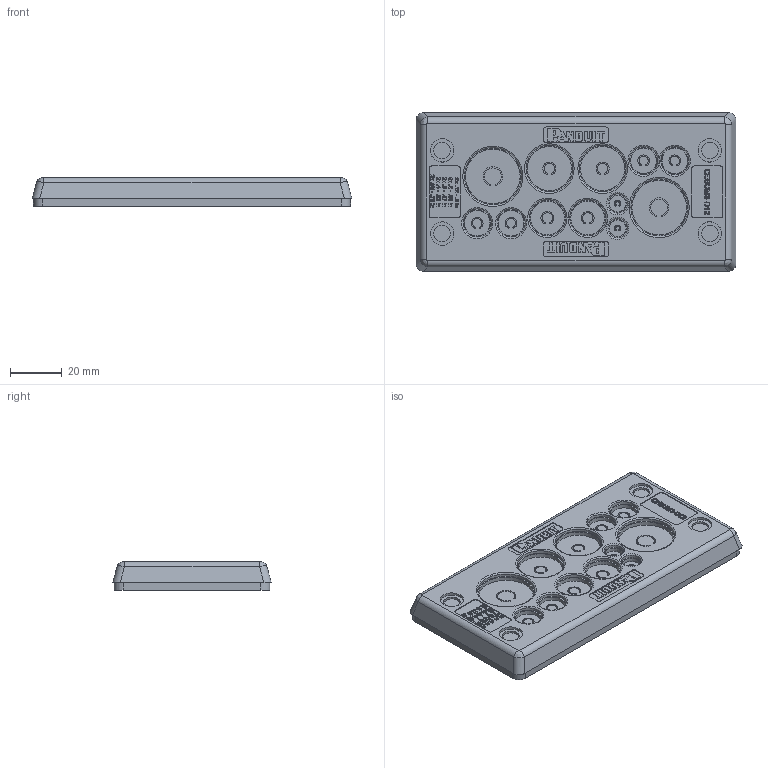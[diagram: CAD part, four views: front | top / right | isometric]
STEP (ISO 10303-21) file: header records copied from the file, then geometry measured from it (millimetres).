
FILE_DESCRIPTION(/* description */ (''),/* implementation_level */ '2;1');
FILE_NAME(/* name */ 'C:\SapWorkDir\Inventor\MP1\ConvertTempPath\87_16_121326_00_A_220602_KDP-Z 16-12.stp',/* time_stamp */ '2022-06-02T09:41:34+02:00',/* author */ ('BAUER'),/* organization */ (''),/* preprocessor_version */ 'ST-DEVELOPER v16.13',/* originating_system */ 'Autodesk Inventor 2018',/* authorisation */ '');
FILE_SCHEMA (('AUTOMOTIVE_DESIGN { 1 0 10303 214 3 1 1 }'));
Products named in the file (1): 121326
Bounding box: 123 x 61 x 11 mm (x, y, z)
Volume: 35106.4 mm3; surface area: 37089.5 mm2
Topology: 2 solids, 2 shells, 2450 faces, 6229 edges, 3766 vertices
Faces by surface type: plane 1119, cylinder 659, bspline 326, sphere 212, torus 74, cone 60
Full cylindrical faces by diameter (mm): 6 x3, 6.4 x8
Entity records: 74525 total; most frequent: CARTESIAN_POINT 17551, ORIENTED_EDGE 11928, DIRECTION 11182, EDGE_CURVE 5964, AXIS2_PLACEMENT_3D 3781, VERTEX_POINT 3752, LINE 3620, VECTOR 3620
